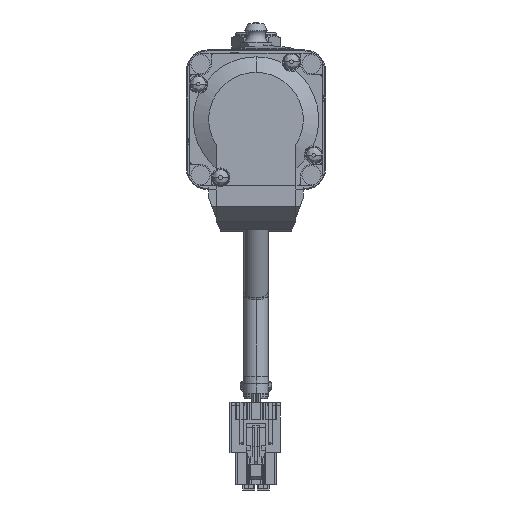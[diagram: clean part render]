
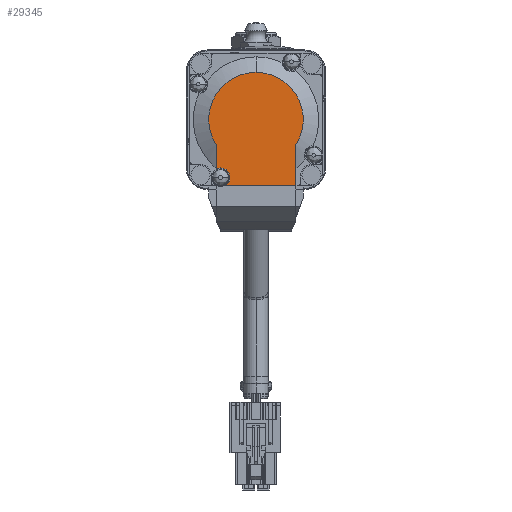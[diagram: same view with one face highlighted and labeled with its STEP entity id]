
A CAD part, front view. The second image highlights one B-rep face of the part: STEP entity #29345.
In plain terms, the highlighted planar face has unit normal (0, -1, 0) as drawn and (-1, 0, 0) by its records, which use the part's own axes.
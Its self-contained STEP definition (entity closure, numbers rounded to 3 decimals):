
#25128=CARTESIAN_POINT('',(-92.,16.6,10.2));
#25129=DIRECTION('',(1.,0.,0.));
#25130=DIRECTION('',(0.,-0.891,0.455));
#25131=AXIS2_PLACEMENT_3D('',#25128,#25129,#25130);
#25133=DIRECTION('',(0.,1.,0.));
#25134=VECTOR('',#25133,6.903);
#25135=CARTESIAN_POINT('',(-92.,7.247,11.45));
#25136=LINE('',#25135,#25134);
#25137=CARTESIAN_POINT('',(-92.,0.,0.));
#25138=DIRECTION('',(-1.,0.,0.));
#25139=DIRECTION('',(0.,-1.,0.));
#25140=AXIS2_PLACEMENT_3D('',#25137,#25138,#25139);
#25142=CARTESIAN_POINT('',(-92.,0.,0.));
#25143=DIRECTION('',(-1.,0.,0.));
#25144=DIRECTION('',(0.,0.535,-0.845));
#25145=AXIS2_PLACEMENT_3D('',#25142,#25143,#25144);
#25147=DIRECTION('',(0.,-1.,0.));
#25148=VECTOR('',#25147,11.753);
#25149=CARTESIAN_POINT('',(-92.,19.,-11.45));
#25150=LINE('',#25149,#25148);
#25151=DIRECTION('',(0.,0.,-1.));
#25152=VECTOR('',#25151,20.307);
#25153=CARTESIAN_POINT('',(-92.,19.,8.857));
#25154=LINE('',#25153,#25152);
#25155=CARTESIAN_POINT('',(-92.,16.6,10.2));
#25156=DIRECTION('',(1.,0.,0.));
#25157=DIRECTION('',(0.,-1.,0.));
#25158=AXIS2_PLACEMENT_3D('',#25155,#25156,#25157);
#25164=CARTESIAN_POINT('',(-92.,7.247,11.45));
#25864=CARTESIAN_POINT('',(-92.,13.85,10.2));
#25866=VERTEX_POINT('',#25864);
#25870=CARTESIAN_POINT('',(-92.,19.,8.857));
#25871=VERTEX_POINT('',#25870);
#25942=CARTESIAN_POINT('',(-92.,-13.551,0.));
#25944=VERTEX_POINT('',#25942);
#25945=CARTESIAN_POINT('',(-92.,7.247,-11.45));
#25946=VERTEX_POINT('',#25945);
#26200=VERTEX_POINT('',#25164);
#26213=CARTESIAN_POINT('',(-92.,14.151,11.45));
#26214=VERTEX_POINT('',#26213);
#26219=CARTESIAN_POINT('',(-92.,19.,-11.45));
#26220=VERTEX_POINT('',#26219);
#29330=CARTESIAN_POINT('',(-92.,-6.775,0.));
#29331=DIRECTION('',(-1.,0.,0.));
#29332=DIRECTION('',(0.,1.,0.));
#29333=AXIS2_PLACEMENT_3D('',#29330,#29331,#29332);
#29334=PLANE('',#29333);
#29335=ORIENTED_EDGE('',*,*,#29022,.F.);
#29337=ORIENTED_EDGE('',*,*,#29336,.F.);
#29338=ORIENTED_EDGE('',*,*,#29319,.F.);
#29339=ORIENTED_EDGE('',*,*,#29308,.F.);
#29340=ORIENTED_EDGE('',*,*,#29286,.F.);
#29341=ORIENTED_EDGE('',*,*,#28978,.F.);
#29342=ORIENTED_EDGE('',*,*,#29004,.F.);
#29343=EDGE_LOOP('',(#29335,#29337,#29338,#29339,#29340,#29341,#29342));
#29344=FACE_OUTER_BOUND('',#29343,.F.);
#29345=ADVANCED_FACE('',(#29344),#29334,.T.);
#25132=CIRCLE('',#25131,2.75);
#25141=CIRCLE('',#25140,13.551);
#25146=CIRCLE('',#25145,13.551);
#25159=CIRCLE('',#25158,2.75);
#28978=EDGE_CURVE('',#25871,#26220,#25154,.T.);
#29004=EDGE_CURVE('',#25866,#25871,#25159,.T.);
#29022=EDGE_CURVE('',#26214,#25866,#25132,.T.);
#29286=EDGE_CURVE('',#26220,#25946,#25150,.T.);
#29308=EDGE_CURVE('',#25946,#25944,#25146,.T.);
#29319=EDGE_CURVE('',#25944,#26200,#25141,.T.);
#29336=EDGE_CURVE('',#26200,#26214,#25136,.T.);
